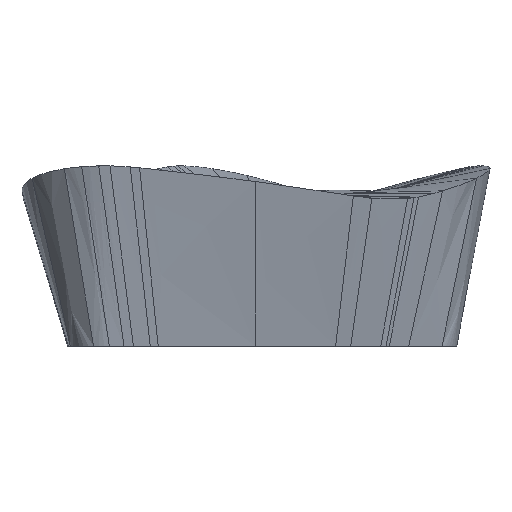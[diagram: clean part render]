
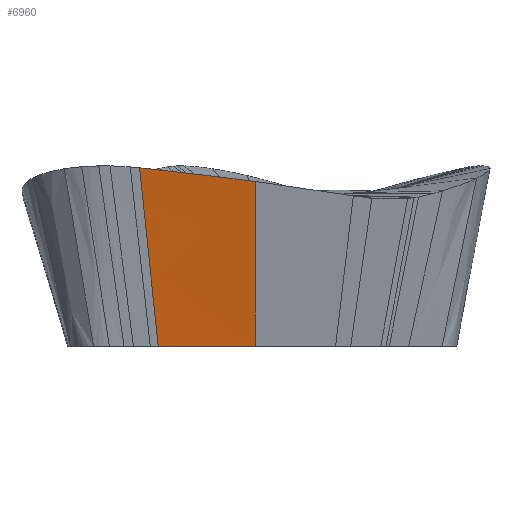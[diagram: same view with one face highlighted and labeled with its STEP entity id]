
A CAD part, front view. The second image highlights one B-rep face of the part: STEP entity #6960.
In plain terms, the highlighted free-form (B-spline) face has degree [5, 5] with [6, 9] control points.
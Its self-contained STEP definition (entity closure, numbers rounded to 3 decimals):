
#4516=CARTESIAN_POINT('Vertex',(-2.484,-3.737,3.823)) ;
#4520=CARTESIAN_POINT('Control Point',(-2.361,-3.739,3.81)) ;
#4521=CARTESIAN_POINT('Control Point',(-2.386,-3.739,3.813)) ;
#4522=CARTESIAN_POINT('Control Point',(-2.411,-3.739,3.815)) ;
#4523=CARTESIAN_POINT('Control Point',(-2.435,-3.738,3.818)) ;
#4524=CARTESIAN_POINT('Control Point',(-2.46,-3.738,3.82)) ;
#4525=CARTESIAN_POINT('Control Point',(-2.484,-3.737,3.823)) ;
#4526=CARTESIAN_POINT('Vertex',(-2.361,-3.739,3.81)) ;
#4583=CARTESIAN_POINT('Control Point',(-1.028,-3.76,3.659)) ;
#4584=CARTESIAN_POINT('Control Point',(-1.295,-3.757,3.691)) ;
#4585=CARTESIAN_POINT('Control Point',(-1.561,-3.753,3.722)) ;
#4586=CARTESIAN_POINT('Control Point',(-1.828,-3.749,3.752)) ;
#4587=CARTESIAN_POINT('Control Point',(-2.095,-3.744,3.783)) ;
#4588=CARTESIAN_POINT('Control Point',(-2.361,-3.739,3.81)) ;
#4589=CARTESIAN_POINT('Vertex',(-1.028,-3.76,3.659)) ;
#4645=CARTESIAN_POINT('Control Point',(0.,-3.769,3.528)) ;
#4646=CARTESIAN_POINT('Control Point',(-0.205,-3.768,3.555)) ;
#4647=CARTESIAN_POINT('Control Point',(-0.411,-3.766,3.583)) ;
#4648=CARTESIAN_POINT('Control Point',(-0.617,-3.764,3.609)) ;
#4649=CARTESIAN_POINT('Control Point',(-0.822,-3.762,3.634)) ;
#4650=CARTESIAN_POINT('Control Point',(-1.028,-3.76,3.659)) ;
#4651=CARTESIAN_POINT('Vertex',(0.,-3.769,3.528)) ;
#4935=CARTESIAN_POINT('Control Point',(0.,-3.769,3.528)) ;
#4936=CARTESIAN_POINT('Control Point',(0.,-3.625,2.822)) ;
#4937=CARTESIAN_POINT('Control Point',(0.,-3.481,2.117)) ;
#4938=CARTESIAN_POINT('Control Point',(0.,-3.338,1.411)) ;
#4939=CARTESIAN_POINT('Control Point',(0.,-3.194,0.706)) ;
#4940=CARTESIAN_POINT('Control Point',(0.,-3.05,0.)) ;
#4941=CARTESIAN_POINT('Vertex',(0.,-3.05,0.)) ;
#6862=CARTESIAN_POINT('Control Point',(-2.484,-3.737,3.823)) ;
#6863=CARTESIAN_POINT('Control Point',(-2.404,-3.598,3.058)) ;
#6864=CARTESIAN_POINT('Control Point',(-2.324,-3.459,2.294)) ;
#6865=CARTESIAN_POINT('Control Point',(-2.244,-3.32,1.529)) ;
#6866=CARTESIAN_POINT('Control Point',(-2.164,-3.18,0.765)) ;
#6867=CARTESIAN_POINT('Control Point',(-2.084,-3.041,0.)) ;
#6868=CARTESIAN_POINT('Vertex',(-2.084,-3.041,0.)) ;
#6887=CARTESIAN_POINT('Control Point',(0.,-3.769,3.528)) ;
#6888=CARTESIAN_POINT('Control Point',(-0.446,-3.766,3.588)) ;
#6889=CARTESIAN_POINT('Control Point',(-0.893,-3.761,3.645)) ;
#6890=CARTESIAN_POINT('Control Point',(-1.34,-3.758,3.695)) ;
#6891=CARTESIAN_POINT('Control Point',(-1.837,-3.749,3.755)) ;
#6892=CARTESIAN_POINT('Control Point',(-2.334,-3.74,3.808)) ;
#6893=CARTESIAN_POINT('Control Point',(-2.384,-3.739,3.813)) ;
#6894=CARTESIAN_POINT('Control Point',(-2.434,-3.738,3.818)) ;
#6895=CARTESIAN_POINT('Control Point',(-2.484,-3.737,3.823)) ;
#6896=CARTESIAN_POINT('Control Point',(0.,-3.625,2.822)) ;
#6897=CARTESIAN_POINT('Control Point',(-0.431,-3.623,2.87)) ;
#6898=CARTESIAN_POINT('Control Point',(-0.863,-3.618,2.916)) ;
#6899=CARTESIAN_POINT('Control Point',(-1.298,-3.615,2.956)) ;
#6900=CARTESIAN_POINT('Control Point',(-1.779,-3.608,3.004)) ;
#6901=CARTESIAN_POINT('Control Point',(-2.26,-3.6,3.046)) ;
#6902=CARTESIAN_POINT('Control Point',(-2.308,-3.599,3.05)) ;
#6903=CARTESIAN_POINT('Control Point',(-2.356,-3.599,3.054)) ;
#6904=CARTESIAN_POINT('Control Point',(-2.404,-3.598,3.058)) ;
#6905=CARTESIAN_POINT('Control Point',(0.,-3.481,2.117)) ;
#6906=CARTESIAN_POINT('Control Point',(-0.415,-3.479,2.153)) ;
#6907=CARTESIAN_POINT('Control Point',(-0.833,-3.475,2.187)) ;
#6908=CARTESIAN_POINT('Control Point',(-1.257,-3.473,2.217)) ;
#6909=CARTESIAN_POINT('Control Point',(-1.721,-3.467,2.253)) ;
#6910=CARTESIAN_POINT('Control Point',(-2.185,-3.461,2.285)) ;
#6911=CARTESIAN_POINT('Control Point',(-2.231,-3.46,2.288)) ;
#6912=CARTESIAN_POINT('Control Point',(-2.278,-3.459,2.291)) ;
#6913=CARTESIAN_POINT('Control Point',(-2.324,-3.459,2.294)) ;
#6914=CARTESIAN_POINT('Control Point',(0.,-3.338,1.411)) ;
#6915=CARTESIAN_POINT('Control Point',(-0.4,-3.336,1.435)) ;
#6916=CARTESIAN_POINT('Control Point',(-0.803,-3.333,1.458)) ;
#6917=CARTESIAN_POINT('Control Point',(-1.215,-3.33,1.478)) ;
#6918=CARTESIAN_POINT('Control Point',(-1.664,-3.326,1.502)) ;
#6919=CARTESIAN_POINT('Control Point',(-2.11,-3.321,1.523)) ;
#6920=CARTESIAN_POINT('Control Point',(-2.155,-3.321,1.525)) ;
#6921=CARTESIAN_POINT('Control Point',(-2.2,-3.32,1.527)) ;
#6922=CARTESIAN_POINT('Control Point',(-2.244,-3.32,1.529)) ;
#6923=CARTESIAN_POINT('Control Point',(0.,-3.194,0.706)) ;
#6924=CARTESIAN_POINT('Control Point',(-0.385,-3.192,0.718)) ;
#6925=CARTESIAN_POINT('Control Point',(-0.773,-3.19,0.729)) ;
#6926=CARTESIAN_POINT('Control Point',(-1.174,-3.188,0.739)) ;
#6927=CARTESIAN_POINT('Control Point',(-1.606,-3.185,0.751)) ;
#6928=CARTESIAN_POINT('Control Point',(-2.035,-3.181,0.762)) ;
#6929=CARTESIAN_POINT('Control Point',(-2.078,-3.181,0.763)) ;
#6930=CARTESIAN_POINT('Control Point',(-2.121,-3.181,0.764)) ;
#6931=CARTESIAN_POINT('Control Point',(-2.164,-3.18,0.765)) ;
#6932=CARTESIAN_POINT('Control Point',(0.,-3.05,0.)) ;
#6933=CARTESIAN_POINT('Control Point',(-0.369,-3.049,0.)) ;
#6934=CARTESIAN_POINT('Control Point',(-0.743,-3.047,0.)) ;
#6935=CARTESIAN_POINT('Control Point',(-1.132,-3.045,0.)) ;
#6936=CARTESIAN_POINT('Control Point',(-1.548,-3.043,0.)) ;
#6937=CARTESIAN_POINT('Control Point',(-1.96,-3.042,0.)) ;
#6938=CARTESIAN_POINT('Control Point',(-2.002,-3.042,0.)) ;
#6939=CARTESIAN_POINT('Control Point',(-2.043,-3.041,0.)) ;
#6940=CARTESIAN_POINT('Control Point',(-2.084,-3.041,0.)) ;
#6942=CARTESIAN_POINT('Control Point',(0.,-3.05,0.)) ;
#6943=CARTESIAN_POINT('Control Point',(-0.369,-3.049,0.)) ;
#6944=CARTESIAN_POINT('Control Point',(-0.743,-3.047,0.)) ;
#6945=CARTESIAN_POINT('Control Point',(-1.132,-3.045,0.)) ;
#6946=CARTESIAN_POINT('Control Point',(-1.548,-3.043,0.)) ;
#6947=CARTESIAN_POINT('Control Point',(-1.96,-3.042,0.)) ;
#6948=CARTESIAN_POINT('Control Point',(-2.002,-3.042,0.)) ;
#6949=CARTESIAN_POINT('Control Point',(-2.043,-3.041,0.)) ;
#6950=CARTESIAN_POINT('Control Point',(-2.084,-3.041,0.)) ;
#6953=ORIENTED_EDGE('',*,*,#4943,.F.) ;
#6954=ORIENTED_EDGE('',*,*,#4653,.T.) ;
#6955=ORIENTED_EDGE('',*,*,#4591,.T.) ;
#6956=ORIENTED_EDGE('',*,*,#4528,.T.) ;
#6957=ORIENTED_EDGE('',*,*,#6870,.T.) ;
#6958=ORIENTED_EDGE('',*,*,#6951,.F.) ;
#6960=ADVANCED_FACE('CUT',(#6959),#6886,.F.) ;
#4519=B_SPLINE_CURVE_WITH_KNOTS('',5,(#4520,#4521,#4522,#4523,#4524,#4525),.UNSPECIFIED.,.F.,.U.,(6,6),(1.073,1.202),.UNSPECIFIED.) ;
#4582=B_SPLINE_CURVE_WITH_KNOTS('',5,(#4583,#4584,#4585,#4586,#4587,#4588),.UNSPECIFIED.,.F.,.U.,(6,6),(-0.331,1.073),.UNSPECIFIED.) ;
#4644=B_SPLINE_CURVE_WITH_KNOTS('',5,(#4645,#4646,#4647,#4648,#4649,#4650),.UNSPECIFIED.,.F.,.U.,(6,6),(-1.416,-0.331),.UNSPECIFIED.) ;
#4934=B_SPLINE_CURVE_WITH_KNOTS('',5,(#4935,#4936,#4937,#4938,#4939,#4940),.UNSPECIFIED.,.F.,.U.,(6,6),(0.,3.664),.UNSPECIFIED.) ;
#6861=B_SPLINE_CURVE_WITH_KNOTS('',5,(#6862,#6863,#6864,#6865,#6866,#6867),.UNSPECIFIED.,.F.,.U.,(6,6),(0.,3.664),.UNSPECIFIED.) ;
#6941=B_SPLINE_CURVE_WITH_KNOTS('',5,(#6942,#6943,#6944,#6945,#6946,#6947,#6948,#6949,#6950),.UNSPECIFIED.,.F.,.U.,(6,3,6),(-1.416,0.939,1.202),.UNSPECIFIED.) ;
#6886=B_SPLINE_SURFACE_WITH_KNOTS('',5,5,((#6887,#6888,#6889,#6890,#6891,#6892,#6893,#6894,#6895),(#6896,#6897,#6898,#6899,#6900,#6901,#6902,#6903,#6904),(#6905,#6906,#6907,#6908,#6909,#6910,#6911,#6912,#6913),(#6914,#6915,#6916,#6917,#6918,#6919,#6920,#6921,#6922),(#6923,#6924,#6925,#6926,#6927,#6928,#6929,#6930,#6931),(#6932,#6933,#6934,#6935,#6936,#6937,#6938,#6939,#6940)),.UNSPECIFIED.,.F.,.F.,.U.,(6,6),(6,3,6),(0.,3.664),(-1.416,0.939,1.202),.UNSPECIFIED.) ;
#4528=EDGE_CURVE('',#4527,#4517,#4519,.T.) ;
#4591=EDGE_CURVE('',#4590,#4527,#4582,.T.) ;
#4653=EDGE_CURVE('',#4652,#4590,#4644,.T.) ;
#4943=EDGE_CURVE('',#4652,#4942,#4934,.T.) ;
#6870=EDGE_CURVE('',#4517,#6869,#6861,.T.) ;
#6951=EDGE_CURVE('',#4942,#6869,#6941,.T.) ;
#6952=EDGE_LOOP('',(#6953,#6954,#6955,#6956,#6957,#6958)) ;
#6959=FACE_OUTER_BOUND('',#6952,.T.) ;
#4517=VERTEX_POINT('',#4516) ;
#4527=VERTEX_POINT('',#4526) ;
#4590=VERTEX_POINT('',#4589) ;
#4652=VERTEX_POINT('',#4651) ;
#4942=VERTEX_POINT('',#4941) ;
#6869=VERTEX_POINT('',#6868) ;
